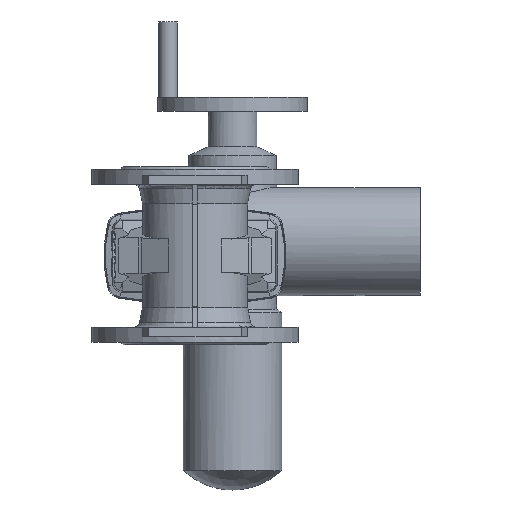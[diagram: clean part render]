
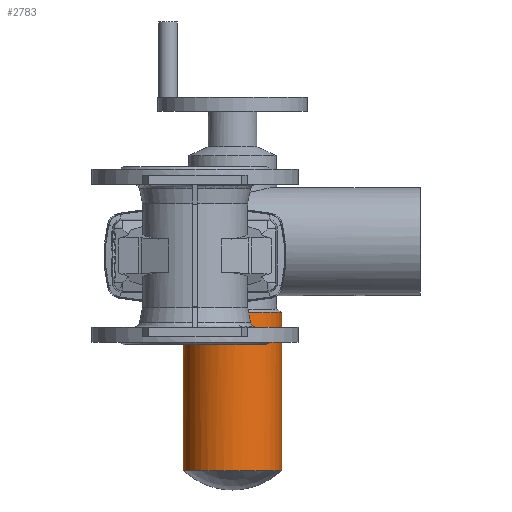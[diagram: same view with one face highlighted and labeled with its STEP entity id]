
A CAD part, front view. The second image highlights one B-rep face of the part: STEP entity #2783.
In plain terms, the highlighted cylindrical face has radius 52.5 mm (diameter 105 mm), a full revolution.
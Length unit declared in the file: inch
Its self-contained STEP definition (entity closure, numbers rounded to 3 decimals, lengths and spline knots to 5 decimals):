
#823 = B_SPLINE_CURVE_WITH_KNOTS ( 'NONE', 3,
 ( #5744, #5743, #5738, #5745, #5746, #5747, #5748, #5749, #5750, #5751, #5752, #5753, #5754, #5755, #5756, #5757, #5758, #5759, #5760, #5761, #5762, #5763, #5764, #5765, #5766, #5767, #5768, #5769, #5770, #5771, #5772, #5773, #5774, #5775, #5776, #5777, #5778, #5779, #5780, #5781, #5782, #5783, #5784, #6931, #6932, #6933, #6934, #6935, #6936, #6937 ),
 .UNSPECIFIED., .F., .F.,
 ( 4, 2, 2, 2, 2, 2, 2, 2, 2, 2, 2, 2, 2, 2, 2, 2, 2, 2, 2, 2, 2, 2, 2, 2, 4 ),
 ( 0.13161, 0.13526, 0.13891, 0.14621, 0.14987, 0.15352, 0.16082, 0.16447, 0.16812, 0.17543, 0.17908, 0.1809, 0.18273, 0.19003, 0.19734, 0.20464, 0.21194, 0.21377, 0.2156, 0.21925, 0.22655, 0.2302, 0.23385, 0.24116, 0.24846 ),
 .UNSPECIFIED. ) ;
#1801 = EDGE_CURVE ( 'NONE', #9671, #9671, #6540, .T. ) ;
#1802 = EDGE_CURVE ( 'NONE', #3881, #3910, #6541, .T. ) ;
#1808 = EDGE_CURVE ( 'NONE', #3881, #3910, #823, .T. ) ;
#2293 = AXIS2_PLACEMENT_3D ( 'NONE', #5679, #5680, #5681 ) ;
#2294 = AXIS2_PLACEMENT_3D ( 'NONE', #5683, #5684, #5685 ) ;
#2511 = ORIENTED_EDGE ( 'NONE', *, *, #1802, .F. ) ;
#2515 = ORIENTED_EDGE ( 'NONE', *, *, #1808, .T. ) ;
#2516 = ORIENTED_EDGE ( 'NONE', *, *, #1801, .T. ) ;
#2783 = ADVANCED_FACE ( 'NONE', ( #9490, #9501 ), #9503, .T. ) ;
#3499 = EDGE_LOOP ( 'NONE', ( #2516 ) ) ;
#3523 = EDGE_LOOP ( 'NONE', ( #2511, #2515 ) ) ;
#3881 = VERTEX_POINT ( 'NONE', #11320 ) ;
#3910 = VERTEX_POINT ( 'NONE', #11349 ) ;
#5679 = CARTESIAN_POINT ( 'NONE',  ( 1.5748, 13.70866, -9.01387 ) ) ;
#5680 = DIRECTION ( 'NONE',  ( 0., 0., 1. ) ) ;
#5681 = DIRECTION ( 'NONE',  ( 1., 0., 0. ) ) ;
#5683 = CARTESIAN_POINT ( 'NONE',  ( 1.5748, 13.70866, -2.36787 ) ) ;
#5684 = DIRECTION ( 'NONE',  ( 0., 0., 1. ) ) ;
#5685 = DIRECTION ( 'NONE',  ( 1., 0., 0. ) ) ;
#5738 = CARTESIAN_POINT ( 'NONE',  ( 0.58486, 11.89359, -2.39049 ) ) ;
#5743 = CARTESIAN_POINT ( 'NONE',  ( 0.62708, 11.87121, -2.37979 ) ) ;
#5744 = CARTESIAN_POINT ( 'NONE',  ( 0.66926, 11.85066, -2.36787 ) ) ;
#5745 = CARTESIAN_POINT ( 'NONE',  ( 0.5023, 11.94112, -2.40919 ) ) ;
#5746 = CARTESIAN_POINT ( 'NONE',  ( 0.46185, 11.96631, -2.41723 ) ) ;
#5747 = CARTESIAN_POINT ( 'NONE',  ( 0.34306, 12.0461, -2.43792 ) ) ;
#5748 = CARTESIAN_POINT ( 'NONE',  ( 0.26727, 12.10493, -2.44714 ) ) ;
#5749 = CARTESIAN_POINT ( 'NONE',  ( 0.15912, 12.20188, -2.45575 ) ) ;
#5750 = CARTESIAN_POINT ( 'NONE',  ( 0.1239, 12.23576, -2.45774 ) ) ;
#5751 = CARTESIAN_POINT ( 'NONE',  ( 0.05644, 12.30541, -2.46021 ) ) ;
#5752 = CARTESIAN_POINT ( 'NONE',  ( 0.02406, 12.34128, -2.46071 ) ) ;
#5753 = CARTESIAN_POINT ( 'NONE',  ( -0.06907, 12.45201, -2.46044 ) ) ;
#5754 = CARTESIAN_POINT ( 'NONE',  ( -0.12584, 12.52994, -2.45795 ) ) ;
#5755 = CARTESIAN_POINT ( 'NONE',  ( -0.20293, 12.65311, -2.45238 ) ) ;
#5756 = CARTESIAN_POINT ( 'NONE',  ( -0.22735, 12.69536, -2.45021 ) ) ;
#5757 = CARTESIAN_POINT ( 'NONE',  ( -0.27285, 12.78091, -2.44556 ) ) ;
#5758 = CARTESIAN_POINT ( 'NONE',  ( -0.29399, 12.82429, -2.44308 ) ) ;
#5759 = CARTESIAN_POINT ( 'NONE',  ( -0.35268, 12.95617, -2.43554 ) ) ;
#5760 = CARTESIAN_POINT ( 'NONE',  ( -0.38554, 13.04643, -2.43039 ) ) ;
#5761 = CARTESIAN_POINT ( 'NONE',  ( -0.42538, 13.18541, -2.42362 ) ) ;
#5762 = CARTESIAN_POINT ( 'NONE',  ( -0.43708, 13.23233, -2.42152 ) ) ;
#5763 = CARTESIAN_POINT ( 'NONE',  ( -0.4522, 13.30365, -2.41873 ) ) ;
#5764 = CARTESIAN_POINT ( 'NONE',  ( -0.45684, 13.32757, -2.41785 ) ) ;
#5765 = CARTESIAN_POINT ( 'NONE',  ( -0.46522, 13.37536, -2.41626 ) ) ;
#5766 = CARTESIAN_POINT ( 'NONE',  ( -0.46898, 13.39926, -2.41553 ) ) ;
#5767 = CARTESIAN_POINT ( 'NONE',  ( -0.48566, 13.51884, -2.41227 ) ) ;
#5768 = CARTESIAN_POINT ( 'NONE',  ( -0.49222, 13.6147, -2.4109 ) ) ;
#5769 = CARTESIAN_POINT ( 'NONE',  ( -0.49203, 13.80682, -2.41094 ) ) ;
#5770 = CARTESIAN_POINT ( 'NONE',  ( -0.48526, 13.90311, -2.41235 ) ) ;
#5771 = CARTESIAN_POINT ( 'NONE',  ( -0.45785, 14.09598, -2.4177 ) ) ;
#5772 = CARTESIAN_POINT ( 'NONE',  ( -0.43753, 14.19027, -2.42157 ) ) ;
#5773 = CARTESIAN_POINT ( 'NONE',  ( -0.3842, 14.37479, -2.4306 ) ) ;
#5774 = CARTESIAN_POINT ( 'NONE',  ( -0.35119, 14.46501, -2.43576 ) ) ;
#5775 = CARTESIAN_POINT ( 'NONE',  ( -0.30185, 14.57524, -2.44207 ) ) ;
#5776 = CARTESIAN_POINT ( 'NONE',  ( -0.29157, 14.59716, -2.44332 ) ) ;
#5777 = CARTESIAN_POINT ( 'NONE',  ( -0.2702, 14.64074, -2.44577 ) ) ;
#5778 = CARTESIAN_POINT ( 'NONE',  ( -0.25908, 14.66242, -2.44698 ) ) ;
#5779 = CARTESIAN_POINT ( 'NONE',  ( -0.22475, 14.72657, -2.45045 ) ) ;
#5780 = CARTESIAN_POINT ( 'NONE',  ( -0.20049, 14.76831, -2.45258 ) ) ;
#5781 = CARTESIAN_POINT ( 'NONE',  ( -0.12362, 14.89053, -2.45806 ) ) ;
#5782 = CARTESIAN_POINT ( 'NONE',  ( -0.06698, 14.96802, -2.4605 ) ) ;
#5783 = CARTESIAN_POINT ( 'NONE',  ( 0.02606, 15.0783, -2.46069 ) ) ;
#5784 = CARTESIAN_POINT ( 'NONE',  ( 0.05842, 15.11406, -2.46017 ) ) ;
#6540 = CIRCLE ( 'NONE', #2293, 2.06693 ) ;
#6541 = CIRCLE ( 'NONE', #2294, 2.06693 ) ;
#6931 = CARTESIAN_POINT ( 'NONE',  ( 0.12592, 15.18355, -2.45764 ) ) ;
#6932 = CARTESIAN_POINT ( 'NONE',  ( 0.16121, 15.2174, -2.45561 ) ) ;
#6933 = CARTESIAN_POINT ( 'NONE',  ( 0.26942, 15.31413, -2.44691 ) ) ;
#6934 = CARTESIAN_POINT ( 'NONE',  ( 0.34504, 15.37265, -2.43763 ) ) ;
#6935 = CARTESIAN_POINT ( 'NONE',  ( 0.50254, 15.47825, -2.41009 ) ) ;
#6936 = CARTESIAN_POINT ( 'NONE',  ( 0.58444, 15.52533, -2.39184 ) ) ;
#6937 = CARTESIAN_POINT ( 'NONE',  ( 0.66926, 15.56667, -2.36787 ) ) ;
#9490 = FACE_OUTER_BOUND ( 'NONE', #3499, .T. ) ;
#9501 = FACE_OUTER_BOUND ( 'NONE', #3523, .T. ) ;
#9503 = CYLINDRICAL_SURFACE ( 'NONE', #9919, 2.06693 ) ;
#9671 = VERTEX_POINT ( 'NONE', #11615 ) ;
#9919 = AXIS2_PLACEMENT_3D ( 'NONE', #10810, #10805, #10807 ) ;
#10805 = DIRECTION ( 'NONE',  ( 0., 0., 1. ) ) ;
#10807 = DIRECTION ( 'NONE',  ( 1., 0., 0. ) ) ;
#10810 = CARTESIAN_POINT ( 'NONE',  ( 1.5748, 13.70866, 0.59055 ) ) ;
#11320 = CARTESIAN_POINT ( 'NONE',  ( 0.66926, 11.85066, -2.36787 ) ) ;
#11349 = CARTESIAN_POINT ( 'NONE',  ( 0.66926, 15.56667, -2.36787 ) ) ;
#11615 = CARTESIAN_POINT ( 'NONE',  ( 3.64173, 13.70866, -9.01387 ) ) ;
